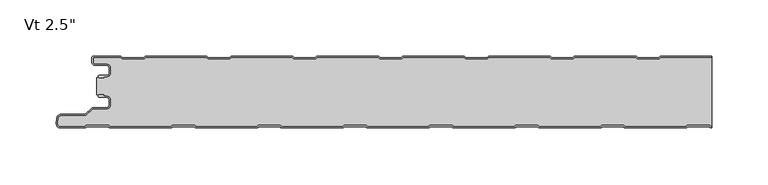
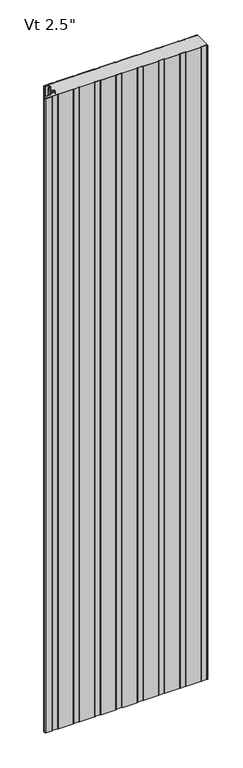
"""IFC4 building model written with IfcOpenShell, lengths in millimetres: plate geometry."""

from ifc_helpers import new_model, si_unit, point, frame, frame_2d, origin, origin_with_axes, place, context, project, spatial, polyline, circle_curve, trimmed, segment, composite_curve, outline, extrude, source, transform, mapped, element, save
from ifc_brep_helpers import plane_surface, cylinder_surface, revolved_surface, advanced_brep


def plate_e7a07bd1(model_context):
    return source(origin(), model_context, "Body", "SolidModel", [
        advanced_brep(
        [(-270.768691, -17.0015159, 2400.0), (-271.7686883, -18.0015191, 2400.0), (-270.768691, -19.0015105, 2400.0), (-266.7684874, -19.0015105, 2400.0), (-266.7684874, -18.0015159, 2400.0), (-264.0762776, -18.0015159, 2400.0), (-260.7762819, -14.7015202, 2400.0), (-260.7762819, -10.301529, 2400.0), (-264.0762774, -7.0015335, 2400.0), (-274.4962563, -7.0015335, 2400.0), (-276.2662505, -5.2315393, 2400.0), (-276.2662505, -0.9999916, 2400.0), (-251.7659738, -0.9999916, 2400.0), (-250.3803312, -2.2002307, 2400.0), (-231.0051649, -2.2002307, 2400.0), (-229.619532, -1.0, 2400.0), (-175.5661166, -1.0, 2400.0), (-174.1804836, -2.2002307, 2400.0), (-154.8053173, -2.2002307, 2400.0), (-153.4196844, -1.0, 2400.0), (-99.366269, -1.0, 2400.0), (-97.980636, -2.2002307, 2400.0), (-78.6054697, -2.2002307, 2400.0), (-77.2198368, -1.0, 2400.0), (-23.1664214, -1.0, 2400.0), (-21.7807884, -2.2002307, 2400.0), (-2.4056221, -2.2002307, 2400.0), (-1.0199892, -1.0, 2400.0), (53.0334262, -1.0, 2400.0), (54.4190592, -2.2002307, 2400.0), (73.7942255, -2.2002307, 2400.0), (75.1798584, -1.0, 2400.0), (129.2332738, -1.0, 2400.0), (130.6189068, -2.2002307, 2400.0), (149.9940731, -2.2002307, 2400.0), (151.379706, -1.0, 2400.0), (205.4331214, -1.0, 2400.0), (206.8187544, -2.2002307, 2400.0), (226.1939207, -2.2002307, 2400.0), (227.5795536, -1.0, 2400.0), (272.7999998, -1.0, 2400.0), (272.7999998, 0.0, 2400.0), (227.7287048, 0.0, 2400.0), (226.8120879, -0.3417885, 2400.0), (225.8210403, -1.2002307, 2400.0), (207.1916348, -1.2002307, 2400.0), (206.2005872, -0.3417885, 2400.0), (205.2839703, 0.0, 2400.0), (151.5288572, 0.0, 2400.0), (150.6122403, -0.3417885, 2400.0), (149.6211927, -1.2002307, 2400.0), (130.9917872, -1.2002307, 2400.0), (130.0007396, -0.3417885, 2400.0), (129.0841227, 0.0, 2400.0), (75.3290096, 0.0, 2400.0), (74.4123927, -0.3417885, 2400.0), (73.4213451, -1.2002307, 2400.0), (54.7919396, -1.2002307, 2400.0), (53.800892, -0.3417885, 2400.0), (52.8842751, 0.0, 2400.0), (-0.870838, 0.0, 2400.0), (-1.7874549, -0.3417885, 2400.0), (-2.7785025, -1.2002307, 2400.0), (-21.407908, -1.2002307, 2400.0), (-22.3989556, -0.3417885, 2400.0), (-23.3155725, 0.0, 2400.0), (-77.0706856, 0.0, 2400.0), (-77.9873025, -0.3417885, 2400.0), (-78.9783501, -1.2002307, 2400.0), (-97.6077556, -1.2002307, 2400.0), (-98.5988032, -0.3417885, 2400.0), (-99.5154201, 0.0, 2400.0), (-153.2705332, 0.0, 2400.0), (-154.1871501, -0.3417885, 2400.0), (-155.1781977, -1.2002307, 2400.0), (-173.8076032, -1.2002307, 2400.0), (-174.7986508, -0.3417885, 2400.0), (-175.7152677, 0.0, 2400.0), (-229.4703808, 0.0, 2400.0), (-230.3869977, -0.3417885, 2400.0), (-231.3780453, -1.2002307, 2400.0), (-250.0074508, -1.2002307, 2400.0), (-250.9984984, -0.3417885, 2400.0), (-251.9152067, 0.0, 2400.0), (-275.8662543, 8.4e-06, 2400.0), (-277.2662505, -1.3999878, 2400.0), (-277.2662505, -5.2315393, 2400.0), (-274.4962563, -8.0015335, 2400.0), (-264.0762774, -8.0015335, 2400.0), (-261.7762819, -10.301529, 2400.0), (-261.7762819, -14.7015202, 2400.0), (-264.0762776, -17.0015159, 2400.0), (-270.768691, -17.0015159, 0.0), (-264.0762776, -17.0015159, 0.0), (-261.7762819, -14.7015202, 0.0), (-261.7762819, -10.301529, 0.0), (-264.0762774, -8.0015335, 0.0), (-274.4962563, -8.0015335, 0.0), (-277.2662505, -5.2315393, 0.0), (-277.2662505, -1.3999878, 0.0), (-275.8662543, 8.4e-06, 0.0), (-251.9151153, 8.4e-06, 0.0), (-250.9984984, -0.3417885, 0.0), (-250.0074508, -1.2002307, 0.0), (-231.3780453, -1.2002307, 0.0), (-230.3869977, -0.3417885, 0.0), (-229.4703808, 0.0, 0.0), (-175.7152677, 0.0, 0.0), (-174.7986508, -0.3417885, 0.0), (-173.8076032, -1.2002307, 0.0), (-155.1781977, -1.2002307, 0.0), (-154.1871501, -0.3417885, 0.0), (-153.2705332, 0.0, 0.0), (-99.5154201, 0.0, 0.0), (-98.5988032, -0.3417885, 0.0), (-97.6077556, -1.2002307, 0.0), (-78.9783501, -1.2002307, 0.0), (-77.9873025, -0.3417885, 0.0), (-77.0706856, 0.0, 0.0), (-23.3155725, 0.0, 0.0), (-22.3989556, -0.3417885, 0.0), (-21.407908, -1.2002307, 0.0), (-2.7785025, -1.2002307, 0.0), (-1.7874549, -0.3417885, 0.0), (-0.870838, 0.0, 0.0), (52.8842751, 0.0, 0.0), (53.800892, -0.3417885, 0.0), (54.7919396, -1.2002307, 0.0), (73.4213451, -1.2002307, 0.0), (74.4123927, -0.3417885, 0.0), (75.3290096, 0.0, 0.0), (129.0841227, 0.0, 0.0), (130.0007396, -0.3417885, 0.0), (130.9917872, -1.2002307, 0.0), (149.6211927, -1.2002307, 0.0), (150.6122403, -0.3417885, 0.0), (151.5288572, 0.0, 0.0), (205.2839703, 0.0, 0.0), (206.2005872, -0.3417885, 0.0), (207.1916348, -1.2002307, 0.0), (225.8210403, -1.2002307, 0.0), (226.8120879, -0.3417885, 0.0), (227.7287048, 0.0, 0.0), (272.7999998, 0.0, 0.0), (272.7999998, -1.0, 0.0), (227.5795536, -1.0, 0.0), (226.1939207, -2.2002307, 0.0), (206.8187544, -2.2002307, 0.0), (205.4331214, -1.0, 0.0), (151.379706, -1.0, 0.0), (149.9940731, -2.2002307, 0.0), (130.6189068, -2.2002307, 0.0), (129.2332738, -1.0, 0.0), (75.1798584, -1.0, 0.0), (73.7942255, -2.2002307, 0.0), (54.4190592, -2.2002307, 0.0), (53.0334262, -1.0, 0.0), (-1.0199892, -1.0, 0.0), (-2.4056221, -2.2002307, 0.0), (-21.7807884, -2.2002307, 0.0), (-23.1664214, -1.0, 0.0), (-77.2198368, -1.0, 0.0), (-78.6054697, -2.2002307, 0.0), (-97.980636, -2.2002307, 0.0), (-99.366269, -1.0, 0.0), (-153.4196844, -1.0, 0.0), (-154.8053173, -2.2002307, 0.0), (-174.1804836, -2.2002307, 0.0), (-175.5661166, -1.0, 0.0), (-229.619532, -1.0, 0.0), (-231.0051649, -2.2002307, 0.0), (-250.3803312, -2.2002307, 0.0), (-251.7659738, -0.9999916, 0.0), (-276.2662505, -0.9999916, 0.0), (-276.2662505, -5.2315393, 0.0), (-274.4962563, -7.0015335, 0.0), (-264.0762774, -7.0015335, 0.0), (-260.7762819, -10.301529, 0.0), (-260.7762819, -14.7015202, 0.0), (-264.0762776, -18.0015159, 0.0), (-266.7684874, -18.0015159, 0.0), (-266.7684874, -19.0015105, 0.0), (-270.768691, -19.0015105, 0.0), (-271.7686882, -18.0015192, 0.0)],
        [
            (0, 1, circle_curve(frame((-270.768691, -18.0015132, 2400.0), z_axis=(0.0, 0.0, 1.0), x_axis=(1.0, 0.0, 0.0)), 0.9999973)),
            (1, 2, circle_curve(frame((-270.768691, -18.0015133, 2400.0), z_axis=(0.0, 0.0, 1.0), x_axis=(1.0, 0.0, 0.0)), 0.9999972)),
            (2, 3),
            (3, 4),
            (4, 5),
            (5, 6, circle_curve(frame((-264.0762776, -14.7015202, 2400.0), z_axis=(0.0, 0.0, 1.0), x_axis=(1.0, 0.0, 0.0)), 3.2999957)),
            (6, 7),
            (7, 8, circle_curve(frame((-264.0762774, -10.301529, 2400.0), z_axis=(0.0, 0.0, 1.0), x_axis=(1.0, 0.0, 0.0)), 3.2999955)),
            (8, 9),
            (9, 10, circle_curve(frame((-274.4962563, -5.2315393, 2400.0), z_axis=(0.0, 0.0, -1.0), x_axis=(1.0, 0.0, 0.0)), 1.7699942)),
            (10, 11),
            (11, 12),
            (12, 13),
            (13, 14),
            (14, 15),
            (15, 16),
            (16, 17),
            (17, 18),
            (18, 19),
            (19, 20),
            (20, 21),
            (21, 22),
            (22, 23),
            (23, 24),
            (24, 25),
            (25, 26),
            (26, 27),
            (27, 28),
            (28, 29),
            (29, 30),
            (30, 31),
            (31, 32),
            (32, 33),
            (33, 34),
            (34, 35),
            (35, 36),
            (36, 37),
            (37, 38),
            (38, 39),
            (39, 40),
            (40, 41),
            (41, 42),
            (42, 43, circle_curve(frame((227.7287048, -1.3999972, 2400.0), z_axis=(0.0, 0.0, 1.0), x_axis=(1.0, 0.0, 0.0)), 1.3999972)),
            (43, 44),
            (44, 45),
            (45, 46),
            (46, 47, circle_curve(frame((205.2839703, -1.3999972, 2400.0), z_axis=(0.0, 0.0, 1.0), x_axis=(1.0, 0.0, 0.0)), 1.3999972)),
            (47, 48),
            (48, 49, circle_curve(frame((151.5288572, -1.3999972, 2400.0), z_axis=(0.0, 0.0, 1.0), x_axis=(1.0, 0.0, 0.0)), 1.3999972)),
            (49, 50),
            (50, 51),
            (51, 52),
            (52, 53, circle_curve(frame((129.0841227, -1.3999972, 2400.0), z_axis=(0.0, 0.0, 1.0), x_axis=(1.0, 0.0, 0.0)), 1.3999972)),
            (53, 54),
            (54, 55, circle_curve(frame((75.3290096, -1.3999972, 2400.0), z_axis=(0.0, 0.0, 1.0), x_axis=(1.0, 0.0, 0.0)), 1.3999972)),
            (55, 56),
            (56, 57),
            (57, 58),
            (58, 59, circle_curve(frame((52.8842751, -1.3999972, 2400.0), z_axis=(0.0, 0.0, 1.0), x_axis=(1.0, 0.0, 0.0)), 1.3999972)),
            (59, 60),
            (60, 61, circle_curve(frame((-0.870838, -1.3999972, 2400.0), z_axis=(0.0, 0.0, 1.0), x_axis=(1.0, 0.0, 0.0)), 1.3999972)),
            (61, 62),
            (62, 63),
            (63, 64),
            (64, 65, circle_curve(frame((-23.3155725, -1.3999972, 2400.0), z_axis=(0.0, 0.0, 1.0), x_axis=(1.0, 0.0, 0.0)), 1.3999972)),
            (65, 66),
            (66, 67, circle_curve(frame((-77.0706856, -1.3999972, 2400.0), z_axis=(0.0, 0.0, 1.0), x_axis=(1.0, 0.0, 0.0)), 1.3999972)),
            (67, 68),
            (68, 69),
            (69, 70),
            (70, 71, circle_curve(frame((-99.5154201, -1.3999972, 2400.0), z_axis=(0.0, 0.0, 1.0), x_axis=(1.0, 0.0, 0.0)), 1.3999972)),
            (71, 72),
            (72, 73, circle_curve(frame((-153.2705332, -1.3999972, 2400.0), z_axis=(0.0, 0.0, 1.0), x_axis=(1.0, 0.0, 0.0)), 1.3999972)),
            (73, 74),
            (74, 75),
            (75, 76),
            (76, 77, circle_curve(frame((-175.7152677, -1.3999972, 2400.0), z_axis=(0.0, 0.0, 1.0), x_axis=(1.0, 0.0, 0.0)), 1.3999972)),
            (77, 78),
            (78, 79, circle_curve(frame((-229.4703808, -1.3999972, 2400.0), z_axis=(0.0, 0.0, 1.0), x_axis=(1.0, 0.0, 0.0)), 1.3999972)),
            (79, 80),
            (80, 81),
            (81, 82),
            (82, 83, circle_curve(frame((-251.9151153, -1.3999972, 2400.0), z_axis=(0.0, 0.0, 1.0), x_axis=(1.0, 0.0, 0.0)), 1.3999972)),
            (83, 84),
            (84, 85, circle_curve(frame((-275.8662543, -1.3999878, 2400.0), z_axis=(0.0, 0.0, 1.0), x_axis=(1.0, 0.0, 0.0)), 1.3999962)),
            (85, 86),
            (86, 87, circle_curve(frame((-274.4962563, -5.2315393, 2400.0), z_axis=(0.0, 0.0, 1.0), x_axis=(1.0, 0.0, 0.0)), 2.7699942)),
            (87, 88),
            (88, 89, circle_curve(frame((-264.0762774, -10.301529, 2400.0), z_axis=(0.0, 0.0, -1.0), x_axis=(1.0, 0.0, 0.0)), 2.2999955)),
            (89, 90),
            (90, 91, circle_curve(frame((-264.0762776, -14.7015202, 2400.0), z_axis=(0.0, 0.0, -1.0), x_axis=(1.0, 0.0, 0.0)), 2.2999957)),
            (91, 0),
            (92, 93),
            (93, 94, circle_curve(frame((-264.0762776, -14.7015202, 0.0), z_axis=(0.0, 0.0, 1.0), x_axis=(1.0, 0.0, 0.0)), 2.2999957)),
            (94, 95),
            (95, 96, circle_curve(frame((-264.0762774, -10.301529, 0.0), z_axis=(0.0, 0.0, 1.0), x_axis=(1.0, 0.0, 0.0)), 2.2999955)),
            (96, 97),
            (97, 98, circle_curve(frame((-274.4962563, -5.2315393, 0.0), z_axis=(0.0, 0.0, -1.0), x_axis=(1.0, 0.0, 0.0)), 2.7699942)),
            (98, 99),
            (99, 100, circle_curve(frame((-275.8662543, -1.3999878, 0.0), z_axis=(0.0, 0.0, -1.0), x_axis=(1.0, 0.0, 0.0)), 1.3999962)),
            (100, 101),
            (101, 102, circle_curve(frame((-251.9151153, -1.3999972, 0.0), z_axis=(0.0, 0.0, -1.0), x_axis=(1.0, 0.0, 0.0)), 1.3999972)),
            (102, 103),
            (103, 104),
            (104, 105),
            (105, 106, circle_curve(frame((-229.4703808, -1.3999972, 0.0), z_axis=(0.0, 0.0, -1.0), x_axis=(1.0, 0.0, 0.0)), 1.3999972)),
            (106, 107),
            (107, 108, circle_curve(frame((-175.7152677, -1.3999972, 0.0), z_axis=(0.0, 0.0, -1.0), x_axis=(1.0, 0.0, 0.0)), 1.3999972)),
            (108, 109),
            (109, 110),
            (110, 111),
            (111, 112, circle_curve(frame((-153.2705332, -1.3999972, 0.0), z_axis=(0.0, 0.0, -1.0), x_axis=(1.0, 0.0, 0.0)), 1.3999972)),
            (112, 113),
            (113, 114, circle_curve(frame((-99.5154201, -1.3999972, 0.0), z_axis=(0.0, 0.0, -1.0), x_axis=(1.0, 0.0, 0.0)), 1.3999972)),
            (114, 115),
            (115, 116),
            (116, 117),
            (117, 118, circle_curve(frame((-77.0706856, -1.3999972, 0.0), z_axis=(0.0, 0.0, -1.0), x_axis=(1.0, 0.0, 0.0)), 1.3999972)),
            (118, 119),
            (119, 120, circle_curve(frame((-23.3155725, -1.3999972, 0.0), z_axis=(0.0, 0.0, -1.0), x_axis=(1.0, 0.0, 0.0)), 1.3999972)),
            (120, 121),
            (121, 122),
            (122, 123),
            (123, 124, circle_curve(frame((-0.870838, -1.3999972, 0.0), z_axis=(0.0, 0.0, -1.0), x_axis=(1.0, 0.0, 0.0)), 1.3999972)),
            (124, 125),
            (125, 126, circle_curve(frame((52.8842751, -1.3999972, 0.0), z_axis=(0.0, 0.0, -1.0), x_axis=(1.0, 0.0, 0.0)), 1.3999972)),
            (126, 127),
            (127, 128),
            (128, 129),
            (129, 130, circle_curve(frame((75.3290096, -1.3999972, 0.0), z_axis=(0.0, 0.0, -1.0), x_axis=(1.0, 0.0, 0.0)), 1.3999972)),
            (130, 131),
            (131, 132, circle_curve(frame((129.0841227, -1.3999972, 0.0), z_axis=(0.0, 0.0, -1.0), x_axis=(1.0, 0.0, 0.0)), 1.3999972)),
            (132, 133),
            (133, 134),
            (134, 135),
            (135, 136, circle_curve(frame((151.5288572, -1.3999972, 0.0), z_axis=(0.0, 0.0, -1.0), x_axis=(1.0, 0.0, 0.0)), 1.3999972)),
            (136, 137),
            (137, 138, circle_curve(frame((205.2839703, -1.3999972, 0.0), z_axis=(0.0, 0.0, -1.0), x_axis=(1.0, 0.0, 0.0)), 1.3999972)),
            (138, 139),
            (139, 140),
            (140, 141),
            (141, 142, circle_curve(frame((227.7287048, -1.3999972, 0.0), z_axis=(0.0, 0.0, -1.0), x_axis=(1.0, 0.0, 0.0)), 1.3999972)),
            (142, 143),
            (143, 144),
            (144, 145),
            (145, 146),
            (146, 147),
            (147, 148),
            (148, 149),
            (149, 150),
            (150, 151),
            (151, 152),
            (152, 153),
            (153, 154),
            (154, 155),
            (155, 156),
            (156, 157),
            (157, 158),
            (158, 159),
            (159, 160),
            (160, 161),
            (161, 162),
            (162, 163),
            (163, 164),
            (164, 165),
            (165, 166),
            (166, 167),
            (167, 168),
            (168, 169),
            (169, 170),
            (170, 171),
            (171, 172),
            (172, 173),
            (173, 174),
            (174, 175, circle_curve(frame((-274.4962563, -5.2315393, 0.0), z_axis=(0.0, 0.0, 1.0), x_axis=(1.0, 0.0, 0.0)), 1.7699942)),
            (175, 176),
            (176, 177, circle_curve(frame((-264.0762774, -10.301529, 0.0), z_axis=(0.0, 0.0, -1.0), x_axis=(1.0, 0.0, 0.0)), 3.2999955)),
            (177, 178),
            (178, 179, circle_curve(frame((-264.0762776, -14.7015202, 0.0), z_axis=(0.0, 0.0, -1.0), x_axis=(1.0, 0.0, 0.0)), 3.2999957)),
            (179, 180),
            (180, 181),
            (181, 182),
            (182, 183, circle_curve(frame((-270.768691, -18.0015133, 0.0), z_axis=(0.0, 0.0, -1.0), x_axis=(1.0, 0.0, 0.0)), 0.9999972)),
            (183, 92, circle_curve(frame((-270.768691, -18.0015132, 0.0), z_axis=(0.0, 0.0, -1.0), x_axis=(1.0, 0.0, 0.0)), 0.9999973)),
            (91, 93),
            (92, 0),
            (90, 94),
            (89, 95),
            (88, 96),
            (87, 97),
            (86, 98),
            (85, 99),
            (84, 100),
            (83, 101),
            (10, 174),
            (173, 11),
            (9, 175),
            (8, 176),
            (7, 177),
            (6, 178),
            (5, 179),
            (4, 180),
            (3, 181),
            (2, 182),
            (1, 183),
            (40, 144),
            (143, 41),
            (82, 102),
            (81, 103),
            (80, 104),
            (79, 105),
            (78, 106),
            (77, 107),
            (76, 108),
            (75, 109),
            (74, 110),
            (73, 111),
            (72, 112),
            (71, 113),
            (70, 114),
            (69, 115),
            (68, 116),
            (67, 117),
            (66, 118),
            (65, 119),
            (64, 120),
            (63, 121),
            (62, 122),
            (61, 123),
            (60, 124),
            (59, 125),
            (58, 126),
            (57, 127),
            (56, 128),
            (55, 129),
            (54, 130),
            (53, 131),
            (52, 132),
            (51, 133),
            (50, 134),
            (49, 135),
            (48, 136),
            (47, 137),
            (46, 138),
            (45, 139),
            (44, 140),
            (43, 141),
            (42, 142),
            (39, 145),
            (38, 146),
            (37, 147),
            (36, 148),
            (35, 149),
            (34, 150),
            (33, 151),
            (32, 152),
            (31, 153),
            (30, 154),
            (29, 155),
            (28, 156),
            (27, 157),
            (26, 158),
            (25, 159),
            (24, 160),
            (23, 161),
            (22, 162),
            (21, 163),
            (20, 164),
            (19, 165),
            (18, 166),
            (17, 167),
            (16, 168),
            (15, 169),
            (14, 170),
            (13, 171),
            (12, 172),
        ],
        [
            plane_surface(frame((184.4000002, 0.0, 2400.0), z_axis=(0.0, 0.0, 1.0), x_axis=(0.0, 1.0, 0.0))),
            plane_surface(frame((184.4000002, 0.0, 0.0), z_axis=(0.0, 0.0, -1.0), x_axis=(0.0, 1.0, 0.0))),
            plane_surface(frame((-270.768691, -17.0015159, 2400.0), z_axis=(0.0, 1.0, 0.0), x_axis=(0.0, 0.0, -1.0))),
            revolved_surface(polyline([(-261.7762819, -14.7015202, 0.0), (-261.7762819, -14.7015202, 2400.0)]), (-264.0762776, -14.7015202, 2400.0), (0.0, 0.0, -1.0)),
            plane_surface(frame((-261.7762819, -14.7015202, 2400.0), z_axis=(-1.0, 0.0, 0.0), x_axis=(0.0, 0.0, -1.0))),
            revolved_surface(polyline([(-261.77628189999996, -10.301529, 0.0), (-261.77628189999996, -10.301529, 2400.0)]), (-264.0762774, -10.301529, 2400.0), (0.0, 0.0, -1.0)),
            plane_surface(frame((-264.0762774, -8.0015335, 2400.0), z_axis=(0.0, -1.0, 0.0), x_axis=(0.0, 0.0, -1.0))),
            cylinder_surface(frame((-274.4962563, -5.2315393, 2400.0), z_axis=(0.0, 0.0, 1.0), x_axis=(1.0, 0.0, 0.0)), 2.7699942),
            plane_surface(frame((-277.2662505, -5.2315393, 2400.0), z_axis=(-1.0, 0.0, 0.0), x_axis=(0.0, 0.0, -1.0))),
            cylinder_surface(frame((-275.8662543, -1.3999878, 2400.0), z_axis=(0.0, 0.0, 1.0), x_axis=(1.0, 0.0, 0.0)), 1.3999962),
            plane_surface(frame((-275.8662543, 8.4e-06, 2400.0), z_axis=(0.0, 1.0, 0.0), x_axis=(0.0, 0.0, -1.0))),
            plane_surface(frame((-276.2662505, -0.9999916, 2400.0), z_axis=(1.0, 0.0, 0.0), x_axis=(0.0, 0.0, -1.0))),
            revolved_surface(polyline([(-272.72626210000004, -5.2315393, 0.0), (-272.72626210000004, -5.2315393, 2400.0)]), (-274.4962563, -5.2315393, 2400.0), (0.0, 0.0, -1.0)),
            plane_surface(frame((-274.4962563, -7.0015335, 2400.0), z_axis=(0.0, 1.0, 0.0), x_axis=(0.0, 0.0, -1.0))),
            cylinder_surface(frame((-264.0762774, -10.301529, 2400.0), z_axis=(0.0, 0.0, 1.0), x_axis=(1.0, 0.0, 0.0)), 3.2999955),
            plane_surface(frame((-260.7762819, -10.301529, 2400.0), z_axis=(1.0, 0.0, 0.0), x_axis=(0.0, 0.0, -1.0))),
            cylinder_surface(frame((-264.0762776, -14.7015202, 2400.0), z_axis=(0.0, 0.0, 1.0), x_axis=(1.0, 0.0, 0.0)), 3.2999957),
            plane_surface(frame((-264.0762776, -18.0015159, 2400.0), z_axis=(0.0, -1.0, 0.0), x_axis=(0.0, 0.0, -1.0))),
            plane_surface(frame((-266.7684874, -18.0015159, 2400.0), z_axis=(1.0, 0.0, 0.0), x_axis=(0.0, 0.0, -1.0))),
            plane_surface(frame((-266.7684874, -19.0015105, 2400.0), z_axis=(0.0, -1.0, 0.0), x_axis=(0.0, 0.0, -1.0))),
            cylinder_surface(frame((-270.768691, -18.0015133, 2400.0), z_axis=(0.0, 0.0, 1.0), x_axis=(1.0, 0.0, 0.0)), 0.9999972),
            cylinder_surface(frame((-270.768691, -18.0015132, 2400.0), z_axis=(0.0, 0.0, 1.0), x_axis=(1.0, 0.0, 0.0)), 0.9999973),
            plane_surface(frame((272.7999998, -73.5, 2400.0), z_axis=(1.0, 0.0, 0.0), x_axis=(0.0, 0.0, -1.0))),
            cylinder_surface(frame((-251.9151153, -1.3999972, 2400.0), z_axis=(0.0, 0.0, 1.0), x_axis=(1.0, 0.0, 0.0)), 1.3999972),
            plane_surface(frame((-250.9984984, -0.3417885, 2400.0), z_axis=(0.6547276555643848, 0.7558648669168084, 0.0), x_axis=(0.0, 0.0, -1.0))),
            plane_surface(frame((-240.6927481, -1.2002307, 2400.0), z_axis=(0.0, 1.0, 0.0), x_axis=(0.0, 0.0, -1.0))),
            plane_surface(frame((-231.3780453, -1.2002307, 2400.0), z_axis=(-0.6547276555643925, 0.7558648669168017, 0.0), x_axis=(0.0, 0.0, -1.0))),
            cylinder_surface(frame((-229.4703808, -1.3999972, 2400.0), z_axis=(0.0, 0.0, 1.0), x_axis=(1.0, 0.0, 0.0)), 1.3999972),
            plane_surface(frame((-229.4703808, 0.0, 2400.0), z_axis=(0.0, 1.0, 0.0), x_axis=(0.0, 0.0, -1.0))),
            cylinder_surface(frame((-175.7152677, -1.3999972, 2400.0), z_axis=(0.0, 0.0, 1.0), x_axis=(1.0, 0.0, 0.0)), 1.3999972),
            plane_surface(frame((-174.7986508, -0.3417885, 2400.0), z_axis=(0.6547276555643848, 0.7558648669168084, 0.0), x_axis=(0.0, 0.0, -1.0))),
            plane_surface(frame((-164.4929005, -1.2002307, 2400.0), z_axis=(0.0, 1.0, 0.0), x_axis=(0.0, 0.0, -1.0))),
            plane_surface(frame((-155.1781977, -1.2002307, 2400.0), z_axis=(-0.6547276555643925, 0.7558648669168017, 0.0), x_axis=(0.0, 0.0, -1.0))),
            cylinder_surface(frame((-153.2705332, -1.3999972, 2400.0), z_axis=(0.0, 0.0, 1.0), x_axis=(1.0, 0.0, 0.0)), 1.3999972),
            plane_surface(frame((-153.2705332, 0.0, 2400.0), z_axis=(0.0, 1.0, 0.0), x_axis=(0.0, 0.0, -1.0))),
            cylinder_surface(frame((-99.5154201, -1.3999972, 2400.0), z_axis=(0.0, 0.0, 1.0), x_axis=(1.0, 0.0, 0.0)), 1.3999972),
            plane_surface(frame((-98.5988032, -0.3417885, 2400.0), z_axis=(0.6547276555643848, 0.7558648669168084, 0.0), x_axis=(0.0, 0.0, -1.0))),
            plane_surface(frame((-88.2930529, -1.2002307, 2400.0), z_axis=(0.0, 1.0, 0.0), x_axis=(0.0, 0.0, -1.0))),
            plane_surface(frame((-78.9783501, -1.2002307, 2400.0), z_axis=(-0.6547276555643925, 0.7558648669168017, 0.0), x_axis=(0.0, 0.0, -1.0))),
            cylinder_surface(frame((-77.0706856, -1.3999972, 2400.0), z_axis=(0.0, 0.0, 1.0), x_axis=(1.0, 0.0, 0.0)), 1.3999972),
            plane_surface(frame((-77.0706856, 0.0, 2400.0), z_axis=(0.0, 1.0, 0.0), x_axis=(0.0, 0.0, -1.0))),
            cylinder_surface(frame((-23.3155725, -1.3999972, 2400.0), z_axis=(0.0, 0.0, 1.0), x_axis=(1.0, 0.0, 0.0)), 1.3999972),
            plane_surface(frame((-22.3989556, -0.3417885, 2400.0), z_axis=(0.6547276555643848, 0.7558648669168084, 0.0), x_axis=(0.0, 0.0, -1.0))),
            plane_surface(frame((-12.0932053, -1.2002307, 2400.0), z_axis=(0.0, 1.0, 0.0), x_axis=(0.0, 0.0, -1.0))),
            plane_surface(frame((-2.7785025, -1.2002307, 2400.0), z_axis=(-0.6547276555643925, 0.7558648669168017, 0.0), x_axis=(0.0, 0.0, -1.0))),
            cylinder_surface(frame((-0.870838, -1.3999972, 2400.0), z_axis=(0.0, 0.0, 1.0), x_axis=(1.0, 0.0, 0.0)), 1.3999972),
            plane_surface(frame((-0.870838, 0.0, 2400.0), z_axis=(0.0, 1.0, 0.0), x_axis=(0.0, 0.0, -1.0))),
            cylinder_surface(frame((52.8842751, -1.3999972, 2400.0), z_axis=(0.0, 0.0, 1.0), x_axis=(1.0, 0.0, 0.0)), 1.3999972),
            plane_surface(frame((53.800892, -0.3417885, 2400.0), z_axis=(0.6547276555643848, 0.7558648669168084, 0.0), x_axis=(0.0, 0.0, -1.0))),
            plane_surface(frame((64.1066423, -1.2002307, 2400.0), z_axis=(0.0, 1.0, 0.0), x_axis=(0.0, 0.0, -1.0))),
            plane_surface(frame((73.4213451, -1.2002307, 2400.0), z_axis=(-0.6547276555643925, 0.7558648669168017, 0.0), x_axis=(0.0, 0.0, -1.0))),
            cylinder_surface(frame((75.3290096, -1.3999972, 2400.0), z_axis=(0.0, 0.0, 1.0), x_axis=(1.0, 0.0, 0.0)), 1.3999972),
            plane_surface(frame((75.3290096, 0.0, 2400.0), z_axis=(0.0, 1.0, 0.0), x_axis=(0.0, 0.0, -1.0))),
            cylinder_surface(frame((129.0841227, -1.3999972, 2400.0), z_axis=(0.0, 0.0, 1.0), x_axis=(1.0, 0.0, 0.0)), 1.3999972),
            plane_surface(frame((130.0007396, -0.3417885, 2400.0), z_axis=(0.6547276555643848, 0.7558648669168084, 0.0), x_axis=(0.0, 0.0, -1.0))),
            plane_surface(frame((140.3064899, -1.2002307, 2400.0), z_axis=(0.0, 1.0, 0.0), x_axis=(0.0, 0.0, -1.0))),
            plane_surface(frame((149.6211927, -1.2002307, 2400.0), z_axis=(-0.6547276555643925, 0.7558648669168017, 0.0), x_axis=(0.0, 0.0, -1.0))),
            cylinder_surface(frame((151.5288572, -1.3999972, 2400.0), z_axis=(0.0, 0.0, 1.0), x_axis=(1.0, 0.0, 0.0)), 1.3999972),
            plane_surface(frame((151.5288572, 0.0, 2400.0), z_axis=(0.0, 1.0, 0.0), x_axis=(0.0, 0.0, -1.0))),
            cylinder_surface(frame((205.2839703, -1.3999972, 2400.0), z_axis=(0.0, 0.0, 1.0), x_axis=(1.0, 0.0, 0.0)), 1.3999972),
            plane_surface(frame((206.2005872, -0.3417885, 2400.0), z_axis=(0.6547276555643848, 0.7558648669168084, 0.0), x_axis=(0.0, 0.0, -1.0))),
            plane_surface(frame((216.5063375, -1.2002307, 2400.0), z_axis=(0.0, 1.0, 0.0), x_axis=(0.0, 0.0, -1.0))),
            plane_surface(frame((225.8210403, -1.2002307, 2400.0), z_axis=(-0.6547276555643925, 0.7558648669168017, 0.0), x_axis=(0.0, 0.0, -1.0))),
            cylinder_surface(frame((227.7287048, -1.3999972, 2400.0), z_axis=(0.0, 0.0, 1.0), x_axis=(1.0, 0.0, 0.0)), 1.3999972),
            plane_surface(frame((227.7287048, 0.0, 2400.0), z_axis=(0.0, 1.0, 0.0), x_axis=(0.0, 0.0, -1.0))),
            plane_surface(frame((281.632969, -1.0, 2400.0), z_axis=(0.0, -1.0, 0.0), x_axis=(0.0, 0.0, -1.0))),
            plane_surface(frame((227.5795536, -1.0, 2400.0), z_axis=(0.6547276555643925, -0.7558648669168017, 0.0), x_axis=(0.0, 0.0, -1.0))),
            plane_surface(frame((226.1939207, -2.2002307, 2400.0), z_axis=(0.0, -1.0, 0.0), x_axis=(0.0, 0.0, -1.0))),
            plane_surface(frame((206.8187544, -2.2002307, 2400.0), z_axis=(-0.6547276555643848, -0.7558648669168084, 0.0), x_axis=(0.0, 0.0, -1.0))),
            plane_surface(frame((205.4331214, -1.0, 2400.0), z_axis=(0.0, -1.0, 0.0), x_axis=(0.0, 0.0, -1.0))),
            plane_surface(frame((151.379706, -1.0, 2400.0), z_axis=(0.6547276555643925, -0.7558648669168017, 0.0), x_axis=(0.0, 0.0, -1.0))),
            plane_surface(frame((149.9940731, -2.2002307, 2400.0), z_axis=(0.0, -1.0, 0.0), x_axis=(0.0, 0.0, -1.0))),
            plane_surface(frame((130.6189068, -2.2002307, 2400.0), z_axis=(-0.6547276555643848, -0.7558648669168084, 0.0), x_axis=(0.0, 0.0, -1.0))),
            plane_surface(frame((129.2332738, -1.0, 2400.0), z_axis=(0.0, -1.0, 0.0), x_axis=(0.0, 0.0, -1.0))),
            plane_surface(frame((75.1798584, -1.0, 2400.0), z_axis=(0.6547276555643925, -0.7558648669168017, 0.0), x_axis=(0.0, 0.0, -1.0))),
            plane_surface(frame((73.7942255, -2.2002307, 2400.0), z_axis=(0.0, -1.0, 0.0), x_axis=(0.0, 0.0, -1.0))),
            plane_surface(frame((54.4190592, -2.2002307, 2400.0), z_axis=(-0.6547276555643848, -0.7558648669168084, 0.0), x_axis=(0.0, 0.0, -1.0))),
            plane_surface(frame((53.0334262, -1.0, 2400.0), z_axis=(0.0, -1.0, 0.0), x_axis=(0.0, 0.0, -1.0))),
            plane_surface(frame((-1.0199892, -1.0, 2400.0), z_axis=(0.6547276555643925, -0.7558648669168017, 0.0), x_axis=(0.0, 0.0, -1.0))),
            plane_surface(frame((-2.4056221, -2.2002307, 2400.0), z_axis=(0.0, -1.0, 0.0), x_axis=(0.0, 0.0, -1.0))),
            plane_surface(frame((-21.7807884, -2.2002307, 2400.0), z_axis=(-0.6547276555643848, -0.7558648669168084, 0.0), x_axis=(0.0, 0.0, -1.0))),
            plane_surface(frame((-23.1664214, -1.0, 2400.0), z_axis=(0.0, -1.0, 0.0), x_axis=(0.0, 0.0, -1.0))),
            plane_surface(frame((-77.2198368, -1.0, 2400.0), z_axis=(0.6547276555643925, -0.7558648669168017, 0.0), x_axis=(0.0, 0.0, -1.0))),
            plane_surface(frame((-78.6054697, -2.2002307, 2400.0), z_axis=(0.0, -1.0, 0.0), x_axis=(0.0, 0.0, -1.0))),
            plane_surface(frame((-97.980636, -2.2002307, 2400.0), z_axis=(-0.6547276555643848, -0.7558648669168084, 0.0), x_axis=(0.0, 0.0, -1.0))),
            plane_surface(frame((-99.366269, -1.0, 2400.0), z_axis=(0.0, -1.0, 0.0), x_axis=(0.0, 0.0, -1.0))),
            plane_surface(frame((-153.4196844, -1.0, 2400.0), z_axis=(0.6547276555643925, -0.7558648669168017, 0.0), x_axis=(0.0, 0.0, -1.0))),
            plane_surface(frame((-154.8053173, -2.2002307, 2400.0), z_axis=(0.0, -1.0, 0.0), x_axis=(0.0, 0.0, -1.0))),
            plane_surface(frame((-174.1804836, -2.2002307, 2400.0), z_axis=(-0.6547276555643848, -0.7558648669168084, 0.0), x_axis=(0.0, 0.0, -1.0))),
            plane_surface(frame((-175.5661166, -1.0, 2400.0), z_axis=(0.0, -1.0, 0.0), x_axis=(0.0, 0.0, -1.0))),
            plane_surface(frame((-229.619532, -1.0, 2400.0), z_axis=(0.6547276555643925, -0.7558648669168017, 0.0), x_axis=(0.0, 0.0, -1.0))),
            plane_surface(frame((-231.0051649, -2.2002307, 2400.0), z_axis=(0.0, -1.0, 0.0), x_axis=(0.0, 0.0, -1.0))),
            plane_surface(frame((-250.3803312, -2.2002307, 2400.0), z_axis=(-0.6547276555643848, -0.7558648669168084, 0.0), x_axis=(0.0, 0.0, -1.0))),
            plane_surface(frame((-251.7659738, -0.9999916, 2400.0), z_axis=(0.0, -1.0, 0.0), x_axis=(0.0, 0.0, -1.0))),
        ],
        [
            (0, [[1, 2, 3, 4, 5, 6, 7, 8, 9, 10, 11, 12, 13, 14, 15, 16, 17, 18, 19, 20, 21, 22, 23, 24, 25, 26, 27, 28, 29, 30, 31, 32, 33, 34, 35, 36, 37, 38, 39, 40, 41, 42, 43, 44, 45, 46, 47, 48, 49, 50, 51, 52, 53, 54, 55, 56, 57, 58, 59, 60, 61, 62, 63, 64, 65, 66, 67, 68, 69, 70, 71, 72, 73, 74, 75, 76, 77, 78, 79, 80, 81, 82, 83, 84, 85, 86, 87, 88, 89, 90, 91, 92]]),
            (1, [[93, 94, 95, 96, 97, 98, 99, 100, 101, 102, 103, 104, 105, 106, 107, 108, 109, 110, 111, 112, 113, 114, 115, 116, 117, 118, 119, 120, 121, 122, 123, 124, 125, 126, 127, 128, 129, 130, 131, 132, 133, 134, 135, 136, 137, 138, 139, 140, 141, 142, 143, 144, 145, 146, 147, 148, 149, 150, 151, 152, 153, 154, 155, 156, 157, 158, 159, 160, 161, 162, 163, 164, 165, 166, 167, 168, 169, 170, 171, 172, 173, 174, 175, 176, 177, 178, 179, 180, 181, 182, 183, 184]]),
            (2, [[185, -93, 186, -92]]),
            (3, [[187, -94, -185, -91]]),
            (4, [[188, -95, -187, -90]]),
            (5, [[189, -96, -188, -89]]),
            (6, [[190, -97, -189, -88]]),
            (7, [[191, -98, -190, -87]]),
            (8, [[192, -99, -191, -86]]),
            (9, [[193, -100, -192, -85]]),
            (10, [[194, -101, -193, -84]]),
            (11, [[195, -174, 196, -11]]),
            (12, [[197, -175, -195, -10]]),
            (13, [[198, -176, -197, -9]]),
            (14, [[199, -177, -198, -8]]),
            (15, [[200, -178, -199, -7]]),
            (16, [[201, -179, -200, -6]]),
            (17, [[202, -180, -201, -5]]),
            (18, [[203, -181, -202, -4]]),
            (19, [[204, -182, -203, -3]]),
            (20, [[205, -183, -204, -2]]),
            (21, [[-186, -184, -205, -1]]),
            (22, [[206, -144, 207, -41]]),
            (23, [[208, -102, -194, -83]]),
            (24, [[209, -103, -208, -82]]),
            (25, [[210, -104, -209, -81]]),
            (26, [[211, -105, -210, -80]]),
            (27, [[212, -106, -211, -79]]),
            (28, [[213, -107, -212, -78]]),
            (29, [[214, -108, -213, -77]]),
            (30, [[215, -109, -214, -76]]),
            (31, [[216, -110, -215, -75]]),
            (32, [[217, -111, -216, -74]]),
            (33, [[218, -112, -217, -73]]),
            (34, [[219, -113, -218, -72]]),
            (35, [[220, -114, -219, -71]]),
            (36, [[221, -115, -220, -70]]),
            (37, [[222, -116, -221, -69]]),
            (38, [[223, -117, -222, -68]]),
            (39, [[224, -118, -223, -67]]),
            (40, [[225, -119, -224, -66]]),
            (41, [[226, -120, -225, -65]]),
            (42, [[227, -121, -226, -64]]),
            (43, [[228, -122, -227, -63]]),
            (44, [[229, -123, -228, -62]]),
            (45, [[230, -124, -229, -61]]),
            (46, [[231, -125, -230, -60]]),
            (47, [[232, -126, -231, -59]]),
            (48, [[233, -127, -232, -58]]),
            (49, [[234, -128, -233, -57]]),
            (50, [[235, -129, -234, -56]]),
            (51, [[236, -130, -235, -55]]),
            (52, [[237, -131, -236, -54]]),
            (53, [[238, -132, -237, -53]]),
            (54, [[239, -133, -238, -52]]),
            (55, [[240, -134, -239, -51]]),
            (56, [[241, -135, -240, -50]]),
            (57, [[242, -136, -241, -49]]),
            (58, [[243, -137, -242, -48]]),
            (59, [[244, -138, -243, -47]]),
            (60, [[245, -139, -244, -46]]),
            (61, [[246, -140, -245, -45]]),
            (62, [[247, -141, -246, -44]]),
            (63, [[248, -142, -247, -43]]),
            (64, [[-42, -207, -143, -248]]),
            (65, [[-145, -206, -40, 249]]),
            (66, [[250, -146, -249, -39]]),
            (67, [[251, -147, -250, -38]]),
            (68, [[252, -148, -251, -37]]),
            (69, [[253, -149, -252, -36]]),
            (70, [[254, -150, -253, -35]]),
            (71, [[255, -151, -254, -34]]),
            (72, [[256, -152, -255, -33]]),
            (73, [[257, -153, -256, -32]]),
            (74, [[258, -154, -257, -31]]),
            (75, [[259, -155, -258, -30]]),
            (76, [[260, -156, -259, -29]]),
            (77, [[261, -157, -260, -28]]),
            (78, [[262, -158, -261, -27]]),
            (79, [[263, -159, -262, -26]]),
            (80, [[264, -160, -263, -25]]),
            (81, [[265, -161, -264, -24]]),
            (82, [[266, -162, -265, -23]]),
            (83, [[267, -163, -266, -22]]),
            (84, [[268, -164, -267, -21]]),
            (85, [[269, -165, -268, -20]]),
            (86, [[270, -166, -269, -19]]),
            (87, [[271, -167, -270, -18]]),
            (88, [[272, -168, -271, -17]]),
            (89, [[273, -169, -272, -16]]),
            (90, [[274, -170, -273, -15]]),
            (91, [[275, -171, -274, -14]]),
            (92, [[276, -172, -275, -13]]),
            (93, [[-196, -173, -276, -12]]),
        ],
    ),
        extrude(outline(composite_curve([segment(polyline([(-283.4415932, -63.4997378), (-305.2521175, -63.4997378)]), True, "CONTINUOUS"), segment(trimmed(circle_curve(frame_2d((-305.2521175, -59.9294985)), 3.5702393), [point((-305.2521175, -63.4997378))], [point((-308.8087619, -59.6182281))], False, "CARTESIAN"), True, "CONTINUOUS"), segment(polyline([(-308.8087619, -59.6182281), (-308.3690674, -54.5941815)]), True, "CONTINUOUS"), segment(trimmed(circle_curve(frame_2d((-304.7198391, -55.2049826)), 3.6999926), [point((-308.3690674, -54.5941815))], [point((-304.7198391, -51.50499))], False, "CARTESIAN"), True, "CONTINUOUS"), segment(polyline([(-304.7198391, -51.50499), (-283.5773995, -51.50499)]), True, "CONTINUOUS"), segment(trimmed(circle_curve(frame_2d((-283.5773995, -50.2049926)), 1.2999974), [point((-283.5773995, -51.50499))], [point((-282.6581626, -51.1242296))], True, "CARTESIAN"), True, "CONTINUOUS"), segment(polyline([(-282.6581626, -51.1242296), (-277.8297451, -46.2958121)]), True, "CONTINUOUS"), segment(trimmed(circle_curve(frame_2d((-275.9205606, -48.2049966)), 2.6999946), [point((-277.8297451, -46.2958121))], [point((-275.9205606, -45.505002))], False, "CARTESIAN"), True, "CONTINUOUS"), segment(polyline([(-275.9205606, -45.505002), (-264.1096715, -45.505002)]), True, "CONTINUOUS"), segment(trimmed(circle_curve(frame_2d((-264.1096715, -43.1550067)), 2.3499953), [point((-264.1096715, -45.505002))], [point((-261.7596762, -43.1550067))], True, "CARTESIAN"), True, "CONTINUOUS"), segment(polyline([(-261.7596762, -43.1550067), (-261.7596762, -38.7550155)]), True, "CONTINUOUS"), segment(trimmed(circle_curve(frame_2d((-264.1096715, -38.7550155)), 2.3499953), [point((-261.7596762, -38.7550155))], [point((-264.1096715, -36.4050202))], True, "CARTESIAN"), True, "CONTINUOUS"), segment(polyline([(-264.1096715, -36.4050202), (-270.6289777, -36.4050202)]), True, "CONTINUOUS"), segment(trimmed(circle_curve(frame_2d((-270.5686906, -35.206538)), 1.1999976), [point((-270.6289777, -36.4050202))], [point((-271.7683, -35.1760161))], False, "CARTESIAN"), True, "CONTINUOUS"), segment(trimmed(circle_curve(frame_2d((-270.5686906, -35.206538)), 1.1999976), [point((-271.7683, -35.1760161))], [point((-270.567176, -34.0065413))], False, "CARTESIAN"), True, "CONTINUOUS"), segment(polyline([(-270.567176, -34.0065413), (-266.8087826, -34.0065413), (-266.8087826, -35.4050202), (-264.1096715, -35.4050202)]), True, "CONTINUOUS"), segment(trimmed(circle_curve(frame_2d((-264.1096715, -38.7550155)), 3.3499953), [point((-264.1096715, -35.4050202))], [point((-260.7596762, -38.7550155))], False, "CARTESIAN"), True, "CONTINUOUS"), segment(polyline([(-260.7596762, -38.7550155), (-260.7596762, -43.1550067)]), True, "CONTINUOUS"), segment(trimmed(circle_curve(frame_2d((-264.1096715, -43.1550067)), 3.3499953), [point((-260.7596762, -43.1550067))], [point((-264.1096715, -46.505002))], False, "CARTESIAN"), True, "CONTINUOUS"), segment(polyline([(-264.1096715, -46.505002), (-275.9205606, -46.505002)]), True, "CONTINUOUS"), segment(trimmed(circle_curve(frame_2d((-275.9205606, -48.2049966)), 1.6999946), [point((-275.9205606, -46.505002))], [point((-277.1226383, -47.0029189))], True, "CARTESIAN"), True, "CONTINUOUS"), segment(polyline([(-277.1226383, -47.0029189), (-282.6247094, -52.50499), (-304.7198391, -52.50499)]), True, "CONTINUOUS"), segment(trimmed(circle_curve(frame_2d((-304.7198391, -55.2049826)), 2.6999926), [point((-304.7198391, -52.50499))], [point((-307.3765707, -54.723592))], True, "CARTESIAN"), True, "CONTINUOUS"), segment(polyline([(-307.3765707, -54.723592), (-307.8125697, -59.7054129)]), True, "CONTINUOUS"), segment(trimmed(circle_curve(frame_2d((-305.2521175, -59.9294985)), 2.5702393), [point((-307.8125697, -59.7054129))], [point((-305.2521175, -62.4997378))], True, "CARTESIAN"), True, "CONTINUOUS"), segment(polyline([(-305.2521175, -62.4997378), (-283.279096, -62.4997378), (-282.0791275, -61.2997693), (-262.359715, -61.2997693), (-261.1594843, -62.5), (-207.0793525, -62.5), (-205.8791218, -61.2997693), (-186.1597093, -61.2997693), (-184.9594786, -62.5), (-130.8793468, -62.5), (-129.6791161, -61.2997693), (-109.9597036, -61.2997693), (-108.7594729, -62.5), (-54.6793411, -62.5), (-53.4791104, -61.2997693), (-33.7596979, -61.2997693), (-32.5594672, -62.5), (21.5206646, -62.5), (22.7208953, -61.2997693), (42.4403078, -61.2997693), (43.6405385, -62.5), (97.7206703, -62.5), (98.920901, -61.2997693), (118.6403135, -61.2997693), (119.8405442, -62.5), (173.9206759, -62.5), (175.1209066, -61.2997693), (194.8403192, -61.2997693), (196.0405499, -62.5), (250.1206816, -62.5), (251.3209123, -61.2997693), (271.0403248, -61.2997693), (272.2405555, -62.5), (272.7999998, -62.5), (272.7999998, -63.5), (272.4096744, -63.5)]), True, "CONTINUOUS"), segment(trimmed(circle_curve(frame_2d((272.402021, -62.1000237)), 1.3999972), [point((272.4096744, -63.5))], [point((271.3579702, -63.0327349))], False, "CARTESIAN"), True, "CONTINUOUS"), segment(polyline([(271.3579702, -63.0327349), (270.6250046, -62.2997693), (251.7343354, -62.2997693), (251.0013908, -63.032714)]), True, "CONTINUOUS"), segment(trimmed(circle_curve(frame_2d((249.95734, -62.1000028)), 1.3999972), [point((251.0013908, -63.032714))], [point((249.95734, -63.5))], False, "CARTESIAN"), True, "CONTINUOUS"), segment(polyline([(249.95734, -63.5), (196.2098268, -63.5)]), True, "CONTINUOUS"), segment(trimmed(circle_curve(frame_2d((196.2021734, -62.1000237)), 1.3999972), [point((196.2098268, -63.5))], [point((195.1581226, -63.0327349))], False, "CARTESIAN"), True, "CONTINUOUS"), segment(polyline([(195.1581226, -63.0327349), (194.425157, -62.2997693), (175.5344878, -62.2997693), (174.8015432, -63.032714)]), True, "CONTINUOUS"), segment(trimmed(circle_curve(frame_2d((173.7574924, -62.1000028)), 1.3999972), [point((174.8015432, -63.032714))], [point((173.7574924, -63.5))], False, "CARTESIAN"), True, "CONTINUOUS"), segment(polyline([(173.7574924, -63.5), (120.0099792, -63.5)]), True, "CONTINUOUS"), segment(trimmed(circle_curve(frame_2d((120.0023258, -62.1000237)), 1.3999972), [point((120.0099792, -63.5))], [point((118.958275, -63.0327349))], False, "CARTESIAN"), True, "CONTINUOUS"), segment(polyline([(118.958275, -63.0327349), (118.2253094, -62.2997693), (99.3346402, -62.2997693), (98.6016956, -63.032714)]), True, "CONTINUOUS"), segment(trimmed(circle_curve(frame_2d((97.5576448, -62.1000028)), 1.3999972), [point((98.6016956, -63.032714))], [point((97.5576448, -63.5))], False, "CARTESIAN"), True, "CONTINUOUS"), segment(polyline([(97.5576448, -63.5), (43.8101316, -63.5)]), True, "CONTINUOUS"), segment(trimmed(circle_curve(frame_2d((43.8024782, -62.1000237)), 1.3999972), [point((43.8101316, -63.5))], [point((42.7584274, -63.0327349))], False, "CARTESIAN"), True, "CONTINUOUS"), segment(polyline([(42.7584274, -63.0327349), (42.0254618, -62.2997693), (23.1347926, -62.2997693), (22.401848, -63.032714)]), True, "CONTINUOUS"), segment(trimmed(circle_curve(frame_2d((21.3577972, -62.1000028)), 1.3999972), [point((22.401848, -63.032714))], [point((21.3577972, -63.5))], False, "CARTESIAN"), True, "CONTINUOUS"), segment(polyline([(21.3577972, -63.5), (-32.389716, -63.5)]), True, "CONTINUOUS"), segment(trimmed(circle_curve(frame_2d((-32.3973694, -62.1000237)), 1.3999972), [point((-32.389716, -63.5))], [point((-33.4414202, -63.0327349))], False, "CARTESIAN"), True, "CONTINUOUS"), segment(polyline([(-33.4414202, -63.0327349), (-34.1743858, -62.2997693), (-53.065055, -62.2997693), (-53.7979996, -63.032714)]), True, "CONTINUOUS"), segment(trimmed(circle_curve(frame_2d((-54.8420504, -62.1000028)), 1.3999972), [point((-53.7979996, -63.032714))], [point((-54.8420504, -63.5))], False, "CARTESIAN"), True, "CONTINUOUS"), segment(polyline([(-54.8420504, -63.5), (-108.5895636, -63.5)]), True, "CONTINUOUS"), segment(trimmed(circle_curve(frame_2d((-108.597217, -62.1000237)), 1.3999972), [point((-108.5895636, -63.5))], [point((-109.6412678, -63.0327349))], False, "CARTESIAN"), True, "CONTINUOUS"), segment(polyline([(-109.6412678, -63.0327349), (-110.3742334, -62.2997693), (-129.2649026, -62.2997693), (-129.9978472, -63.032714)]), True, "CONTINUOUS"), segment(trimmed(circle_curve(frame_2d((-131.041898, -62.1000028)), 1.3999972), [point((-129.9978472, -63.032714))], [point((-131.041898, -63.5))], False, "CARTESIAN"), True, "CONTINUOUS"), segment(polyline([(-131.041898, -63.5), (-184.7894112, -63.5)]), True, "CONTINUOUS"), segment(trimmed(circle_curve(frame_2d((-184.7970646, -62.1000237)), 1.3999972), [point((-184.7894112, -63.5))], [point((-185.8411154, -63.0327349))], False, "CARTESIAN"), True, "CONTINUOUS"), segment(polyline([(-185.8411154, -63.0327349), (-186.574081, -62.2997693), (-205.4647502, -62.2997693), (-206.1976948, -63.032714)]), True, "CONTINUOUS"), segment(trimmed(circle_curve(frame_2d((-207.2417456, -62.1000028)), 1.3999972), [point((-206.1976948, -63.032714))], [point((-207.2417456, -63.5))], False, "CARTESIAN"), True, "CONTINUOUS"), segment(polyline([(-207.2417456, -63.5), (-260.9892588, -63.5)]), True, "CONTINUOUS"), segment(trimmed(circle_curve(frame_2d((-260.9969122, -62.1000237)), 1.3999972), [point((-260.9892588, -63.5))], [point((-262.040963, -63.0327349))], False, "CARTESIAN"), True, "CONTINUOUS"), segment(polyline([(-262.040963, -63.0327349), (-262.7739286, -62.2997693), (-281.6649139, -62.2997693), (-282.3976402, -63.0324955)]), True, "CONTINUOUS"), segment(trimmed(circle_curve(frame_2d((-283.4415932, -62.0998717)), 1.3998661), [point((-282.3976402, -63.0324955))], [point((-283.4415932, -63.4997378))], False, "CARTESIAN"), True, "CONTINUOUS")], self_intersect=False)), origin_with_axes(), (0.0, 0.0, 1.0), 2400.0),
        extrude(outline(composite_curve([segment(polyline([(-271.7683, -35.1760161), (-272.7999998, -34.1443162), (-272.7999998, -19.0328308), (-271.7686882, -18.0015192)]), True, "CONTINUOUS"), segment(trimmed(circle_curve(frame_2d((-270.768691, -18.0015133)), 0.9999972), [point((-271.7686882, -18.0015192))], [point((-270.768691, -19.0015105))], True, "CARTESIAN"), True, "CONTINUOUS"), segment(polyline([(-270.768691, -19.0015105), (-266.7684873, -19.0015105), (-266.7684873, -18.0015159), (-264.0762775, -18.0015159)]), True, "CONTINUOUS"), segment(trimmed(circle_curve(frame_2d((-264.0762775, -14.7015202)), 3.2999957), [point((-264.0762775, -18.0015159))], [point((-260.7762818, -14.7015202))], True, "CARTESIAN"), True, "CONTINUOUS"), segment(polyline([(-260.7762818, -14.7015202), (-260.7762818, -10.301529)]), True, "CONTINUOUS"), segment(trimmed(circle_curve(frame_2d((-264.0762777, -10.301529)), 3.2999959), [point((-260.7762818, -10.301529))], [point((-264.0762777, -7.0015331))], True, "CARTESIAN"), True, "CONTINUOUS"), segment(polyline([(-264.0762777, -7.0015331), (-274.4962562, -7.0015331)]), True, "CONTINUOUS"), segment(trimmed(circle_curve(frame_2d((-274.4962562, -5.2315389)), 1.7699942), [point((-274.4962562, -7.0015331))], [point((-276.2662504, -5.2315389))], False, "CARTESIAN"), True, "CONTINUOUS"), segment(polyline([(-276.2662504, -5.2315389), (-276.2662504, -0.9999916), (-251.7659738, -0.9999916), (-250.3803312, -2.2002307), (-231.0051649, -2.2002307), (-229.6195319, -1.0), (-175.5661165, -1.0), (-174.1804836, -2.2002307), (-154.8053173, -2.2002307), (-153.4196843, -1.0), (-99.3662689, -1.0), (-97.980636, -2.2002307), (-78.6054697, -2.2002307), (-77.2198367, -1.0), (-23.1664213, -1.0), (-21.7807884, -2.2002307), (-2.4056221, -2.2002307), (-1.0199891, -1.0), (53.0334263, -1.0), (54.4190592, -2.2002307), (73.7942255, -2.2002307), (75.1798585, -1.0), (129.2332739, -1.0), (130.6189068, -2.2002307), (149.9940731, -2.2002307), (151.3797061, -1.0), (205.4331215, -1.0), (206.8187544, -2.2002307), (226.1939207, -2.2002307), (227.5795537, -1.0), (272.7999998, -1.0), (272.7999998, -62.5), (272.2405555, -62.5), (271.0403248, -61.2997693), (251.3209123, -61.2997693), (250.1206816, -62.5), (196.0405499, -62.5), (194.8403192, -61.2997693), (175.1209066, -61.2997693), (173.9206759, -62.5), (119.8405442, -62.5), (118.6403135, -61.2997693), (98.920901, -61.2997693), (97.7206703, -62.5), (43.6405385, -62.5), (42.4403078, -61.2997693), (22.7208953, -61.2997693), (21.5206646, -62.5), (-32.5594672, -62.5), (-33.7596979, -61.2997693), (-53.4791104, -61.2997693), (-54.6793411, -62.5), (-108.7594729, -62.5), (-109.9597036, -61.2997693), (-129.6791161, -61.2997693), (-130.8793468, -62.5), (-184.9594786, -62.5), (-186.1597093, -61.2997693), (-205.8791218, -61.2997693), (-207.0793525, -62.5), (-261.1594843, -62.5), (-262.359715, -61.2997693), (-282.0791275, -61.2997693), (-283.279096, -62.4997378), (-305.2521175, -62.4997378)]), True, "CONTINUOUS"), segment(trimmed(circle_curve(frame_2d((-305.2521175, -59.9294985)), 2.5702393), [point((-305.2521175, -62.4997378))], [point((-307.8125697, -59.7054129))], False, "CARTESIAN"), True, "CONTINUOUS"), segment(polyline([(-307.8125697, -59.7054129), (-307.3765707, -54.723592)]), True, "CONTINUOUS"), segment(trimmed(circle_curve(frame_2d((-304.7198391, -55.2049826)), 2.6999926), [point((-307.3765707, -54.723592))], [point((-304.7198391, -52.50499))], False, "CARTESIAN"), True, "CONTINUOUS"), segment(polyline([(-304.7198391, -52.50499), (-282.6247094, -52.50499), (-277.1226383, -47.0029189)]), True, "CONTINUOUS"), segment(trimmed(circle_curve(frame_2d((-275.9205606, -48.2049966)), 1.6999946), [point((-277.1226383, -47.0029189))], [point((-275.9205606, -46.505002))], False, "CARTESIAN"), True, "CONTINUOUS"), segment(polyline([(-275.9205606, -46.505002), (-264.1096715, -46.505002)]), True, "CONTINUOUS"), segment(trimmed(circle_curve(frame_2d((-264.1096715, -43.1550067)), 3.3499953), [point((-264.1096715, -46.505002))], [point((-260.7596762, -43.1550067))], True, "CARTESIAN"), True, "CONTINUOUS"), segment(polyline([(-260.7596762, -43.1550067), (-260.7596762, -38.7550155)]), True, "CONTINUOUS"), segment(trimmed(circle_curve(frame_2d((-264.1096715, -38.7550155)), 3.3499953), [point((-260.7596762, -38.7550155))], [point((-264.1096715, -35.4050202))], True, "CARTESIAN"), True, "CONTINUOUS"), segment(polyline([(-264.1096715, -35.4050202), (-266.8087826, -35.4050202), (-266.8087826, -34.0065413), (-270.567176, -34.0065413)]), True, "CONTINUOUS"), segment(trimmed(circle_curve(frame_2d((-270.5686906, -35.206538)), 1.1999976), [point((-270.567176, -34.0065413))], [point((-271.7683, -35.1760161))], True, "CARTESIAN"), True, "CONTINUOUS")], self_intersect=False)), origin_with_axes(), (0.0, 0.0, 1.0), 2400.0),
    ])


if __name__ == "__main__":
    model = new_model("IFC4")
    model_context = context("Model", 3, world=origin())
    ifc_project = project(units=[si_unit("LENGTHUNIT", "METRE", prefix="MILLI")], contexts=[model_context])
    site = spatial("IfcSite", under=ifc_project)
    building = spatial("IfcBuilding", under=site)
    placement = place(None, origin())
    plate_shape = plate_e7a07bd1(model_context)
    element("IfcPlate", 1, ObjectType="KIP-36-Karrier-KP-R19-CP-Vt-SL3-8in_SL : Vt 2.5\"", at=placement, inside=building, context=model_context, shape_type="MappedRepresentation", body=[
        mapped(plate_shape, transform((0.0, 0.0, 0.0), x_axis=(1.0, 0.0, 0.0), y_axis=(0.0, 1.0, 0.0), z_axis=(0.0, 0.0, 1.0))),
    ])
    save(model, "model.ifc")
